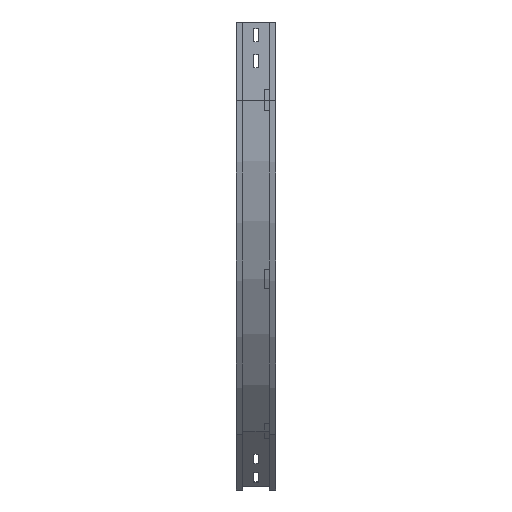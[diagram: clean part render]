
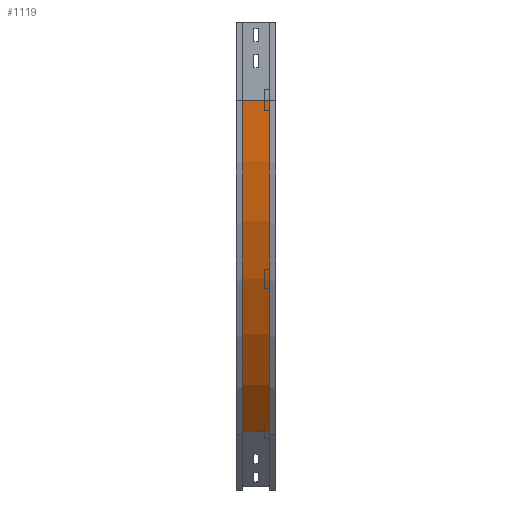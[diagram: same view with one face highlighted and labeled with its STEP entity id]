
A CAD part, left-side view. The second image highlights one B-rep face of the part: STEP entity #1119.
In plain terms, the highlighted cylindrical face has radius 900 mm (diameter 1800 mm), a partial arc.
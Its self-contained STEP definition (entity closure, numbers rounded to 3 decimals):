
#55 = VECTOR ( 'NONE', #1567, 1000. ) ;
#332 = DIRECTION ( 'NONE',  ( 0., 0., -1. ) ) ;
#551 = CYLINDRICAL_SURFACE ( 'NONE', #1222, 900. ) ;
#556 = CARTESIAN_POINT ( 'NONE',  ( 272.604, 12., -786.396 ) ) ;
#586 = DIRECTION ( 'NONE',  ( 0., -1., 0. ) ) ;
#643 = CARTESIAN_POINT ( 'NONE',  ( 9., 12., -150. ) ) ;
#720 = VERTEX_POINT ( 'NONE', #556 ) ;
#765 = VERTEX_POINT ( 'NONE', #643 ) ;
#850 = CIRCLE ( 'NONE', #2590, 900. ) ;
#943 = DIRECTION ( 'NONE',  ( -1., 0., 0. ) ) ;
#948 = EDGE_CURVE ( 'NONE', #1560, #720, #1798, .T. ) ;
#1084 = ORIENTED_EDGE ( 'NONE', *, *, #2191, .T. ) ;
#1119 = ADVANCED_FACE ( 'NONE', ( #1635 ), #551, .T. ) ;
#1123 = LINE ( 'NONE', #3191, #2156 ) ;
#1155 = DIRECTION ( 'NONE',  ( 0., -1., 0. ) ) ;
#1216 = EDGE_CURVE ( 'NONE', #765, #720, #2922, .T. ) ;
#1222 = AXIS2_PLACEMENT_3D ( 'NONE', #1618, #586, #332 ) ;
#1291 = ORIENTED_EDGE ( 'NONE', *, *, #948, .T. ) ;
#1414 = VERTEX_POINT ( 'NONE', #2731 ) ;
#1465 = CARTESIAN_POINT ( 'NONE',  ( 909., 12., -150. ) ) ;
#1560 = VERTEX_POINT ( 'NONE', #2809 ) ;
#1567 = DIRECTION ( 'NONE',  ( 0., -1., 0. ) ) ;
#1618 = CARTESIAN_POINT ( 'NONE',  ( 909., 0., -150. ) ) ;
#1635 = FACE_OUTER_BOUND ( 'NONE', #2033, .T. ) ;
#1798 = LINE ( 'NONE', #2806, #55 ) ;
#1808 = DIRECTION ( 'NONE',  ( -1., 0., 0. ) ) ;
#1923 = ORIENTED_EDGE ( 'NONE', *, *, #2002, .F. ) ;
#2002 = EDGE_CURVE ( 'NONE', #1414, #765, #1123, .T. ) ;
#2033 = EDGE_LOOP ( 'NONE', ( #2718, #1923, #1084, #1291 ) ) ;
#2156 = VECTOR ( 'NONE', #2407, 1000. ) ;
#2191 = EDGE_CURVE ( 'NONE', #1414, #1560, #850, .T. ) ;
#2407 = DIRECTION ( 'NONE',  ( 0., -1., 0. ) ) ;
#2590 = AXIS2_PLACEMENT_3D ( 'NONE', #3040, #2772, #1808 ) ;
#2718 = ORIENTED_EDGE ( 'NONE', *, *, #1216, .F. ) ;
#2731 = CARTESIAN_POINT ( 'NONE',  ( 9., 63., -150. ) ) ;
#2772 = DIRECTION ( 'NONE',  ( 0., -1., 0. ) ) ;
#2805 = AXIS2_PLACEMENT_3D ( 'NONE', #1465, #1155, #943 ) ;
#2806 = CARTESIAN_POINT ( 'NONE',  ( 272.604, 12., -786.396 ) ) ;
#2809 = CARTESIAN_POINT ( 'NONE',  ( 272.604, 63., -786.396 ) ) ;
#2922 = CIRCLE ( 'NONE', #2805, 900. ) ;
#3040 = CARTESIAN_POINT ( 'NONE',  ( 909., 63., -150. ) ) ;
#3191 = CARTESIAN_POINT ( 'NONE',  ( 9., 12., -150. ) ) ;
